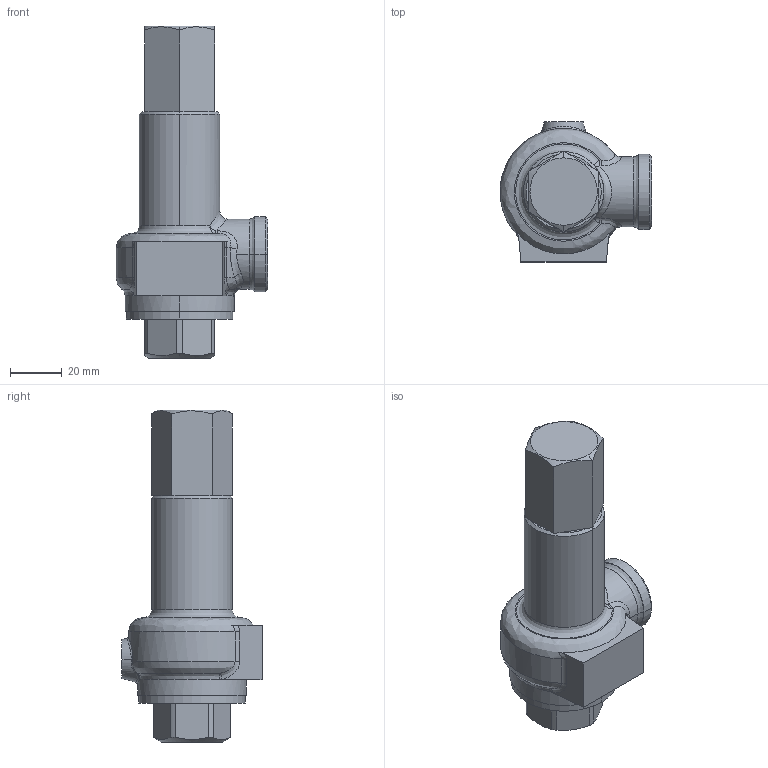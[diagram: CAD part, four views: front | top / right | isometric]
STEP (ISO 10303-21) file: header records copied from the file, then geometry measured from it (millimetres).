
FILE_DESCRIPTION( (''), '2;1');
FILE_NAME ('PC1027.9568.AL-140 15A_7301.stp','2025-07-28T13:35:55',(''),(''),'spGate 19.8.4 (****-****-****-****)','','');
FILE_SCHEMA (('AUTOMOTIVE_DESIGN'));
Length unit declared in the file: millimetre
Products named in the file (2): Assembly; AL-140 15A-3D
Assembly tree (1 placements, depth 2):
  Assembly
    AL-140 15A-3D
Bounding box: 58.46 x 54 x 128 mm (x, y, z)
Volume: 126295.3 mm3; surface area: 19806.8 mm2
Topology: 1 solids, 1 shells, 116 faces, 268 edges, 158 vertices
Faces by surface type: bspline 48, plane 38, cylinder 24, sphere 6
Entity records: 7207 total; most frequent: CARTESIAN_POINT 2635, ORIENTED_EDGE 536, DIRECTION 444, COLOUR_RGB 385, PRESENTATION_STYLE_ASSIGNMENT 385, STYLED_ITEM 385, EDGE_CURVE 268, DRAUGHTING_PRE_DEFINED_CURVE_FONT 268
